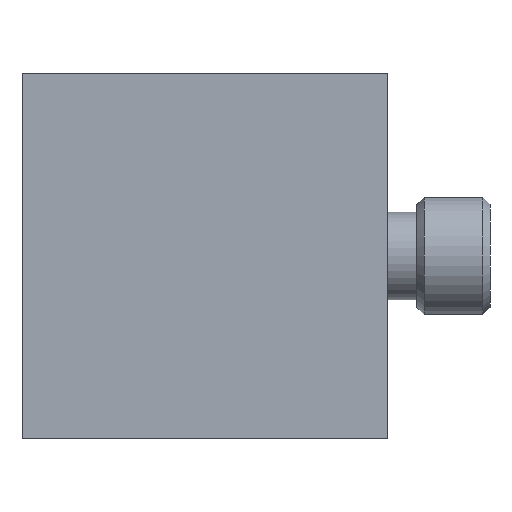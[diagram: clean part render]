
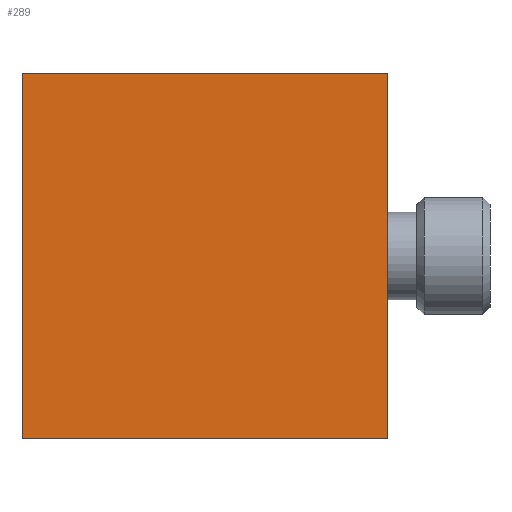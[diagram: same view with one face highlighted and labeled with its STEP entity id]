
A CAD part, front view. The second image highlights one B-rep face of the part: STEP entity #289.
In plain terms, the highlighted planar face has unit normal (0, -1, 0).
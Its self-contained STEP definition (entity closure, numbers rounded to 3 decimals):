
#28 = ORIENTED_EDGE ( 'NONE', *, *, #684, .T. ) ;
#36 = CARTESIAN_POINT ( 'NONE',  ( 12.5, 0., -12.5 ) ) ;
#64 = CARTESIAN_POINT ( 'NONE',  ( -12.5, 0., -12.5 ) ) ;
#67 = LINE ( 'NONE', #672, #686 ) ;
#71 = ORIENTED_EDGE ( 'NONE', *, *, #393, .T. ) ;
#76 = EDGE_CURVE ( 'NONE', #238, #178, #67, .T. ) ;
#83 = DIRECTION ( 'NONE',  ( 0., 0., -1. ) ) ;
#135 = LINE ( 'NONE', #205, #294 ) ;
#167 = VECTOR ( 'NONE', #761, 1000. ) ;
#178 = VERTEX_POINT ( 'NONE', #190 ) ;
#179 = CARTESIAN_POINT ( 'NONE',  ( 12.5, 0., 12.5 ) ) ;
#188 = FACE_OUTER_BOUND ( 'NONE', #509, .T. ) ;
#190 = CARTESIAN_POINT ( 'NONE',  ( -12.5, 0., 12.5 ) ) ;
#193 = VECTOR ( 'NONE', #697, 1000. ) ;
#197 = DIRECTION ( 'NONE',  ( 0., 1., 0. ) ) ;
#205 = CARTESIAN_POINT ( 'NONE',  ( -12.5, 0., -12.5 ) ) ;
#212 = VERTEX_POINT ( 'NONE', #64 ) ;
#238 = VERTEX_POINT ( 'NONE', #601 ) ;
#283 = AXIS2_PLACEMENT_3D ( 'NONE', #179, #197, #623 ) ;
#289 = ADVANCED_FACE ( 'NONE', ( #188 ), #420, .F. ) ;
#294 = VECTOR ( 'NONE', #83, 1000. ) ;
#354 = LINE ( 'NONE', #400, #167 ) ;
#393 = EDGE_CURVE ( 'NONE', #178, #212, #135, .T. ) ;
#400 = CARTESIAN_POINT ( 'NONE',  ( -12.5, 0., -12.5 ) ) ;
#420 = PLANE ( 'NONE',  #283 ) ;
#487 = VERTEX_POINT ( 'NONE', #635 ) ;
#509 = EDGE_LOOP ( 'NONE', ( #679, #71, #28, #694 ) ) ;
#516 = LINE ( 'NONE', #36, #193 ) ;
#601 = CARTESIAN_POINT ( 'NONE',  ( 12.5, 0., 12.5 ) ) ;
#623 = DIRECTION ( 'NONE',  ( 0., 0., 1. ) ) ;
#635 = CARTESIAN_POINT ( 'NONE',  ( 12.5, 0., -12.5 ) ) ;
#672 = CARTESIAN_POINT ( 'NONE',  ( -12.5, 0., 12.5 ) ) ;
#673 = EDGE_CURVE ( 'NONE', #487, #238, #516, .T. ) ;
#679 = ORIENTED_EDGE ( 'NONE', *, *, #76, .T. ) ;
#684 = EDGE_CURVE ( 'NONE', #212, #487, #354, .T. ) ;
#686 = VECTOR ( 'NONE', #732, 1000. ) ;
#694 = ORIENTED_EDGE ( 'NONE', *, *, #673, .T. ) ;
#697 = DIRECTION ( 'NONE',  ( 0., 0., 1. ) ) ;
#732 = DIRECTION ( 'NONE',  ( -1., 0., 0. ) ) ;
#761 = DIRECTION ( 'NONE',  ( 1., 0., 0. ) ) ;
